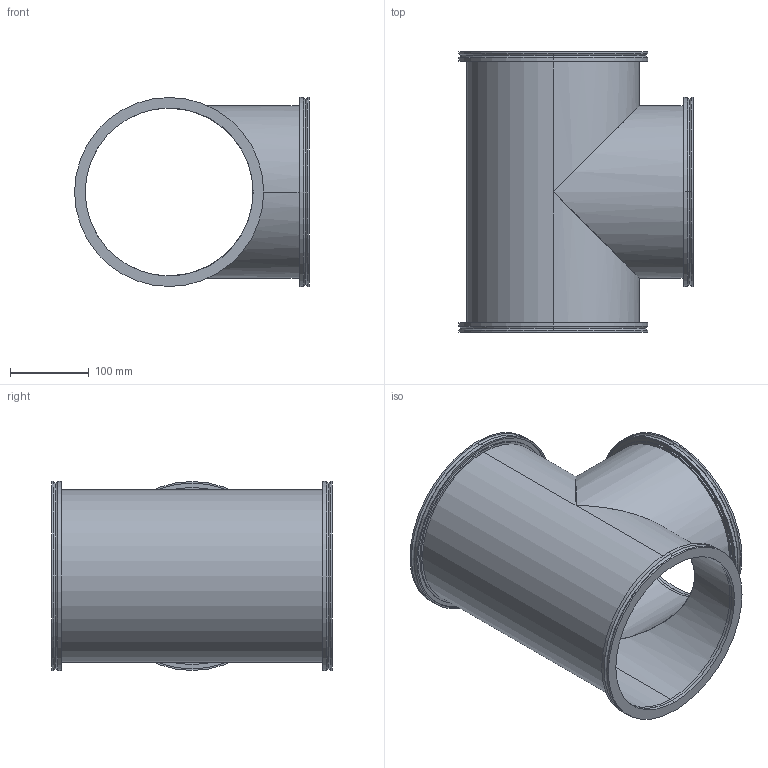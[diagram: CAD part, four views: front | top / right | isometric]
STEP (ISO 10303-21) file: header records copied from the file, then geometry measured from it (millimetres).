
FILE_DESCRIPTION (( 'STEP AP214' ), '1' );
FILE_NAME ('W4TS200.STEP', '2020-10-12T15:02:20', ( '' ), ( '' ), 'SwSTEP 2.0', 'SolidWorks 2020', '' );
FILE_SCHEMA (( 'AUTOMOTIVE_DESIGN' ));
Length unit declared in the file: millimetre
Products named in the file (1): W4TS200
Bounding box: 298 x 356 x 240 mm (x, y, z)
Volume: 1033315.3 mm3; surface area: 641370.8 mm2
Topology: 5 solids, 5 shells, 89 faces, 184 edges, 114 vertices
Faces by surface type: cylinder 52, plane 25, torus 12
Entity records: 2478 total; most frequent: DIRECTION 466, CARTESIAN_POINT 424, ORIENTED_EDGE 368, AXIS2_PLACEMENT_3D 204, EDGE_CURVE 184, CIRCLE 114, VERTEX_POINT 114, EDGE_LOOP 110
